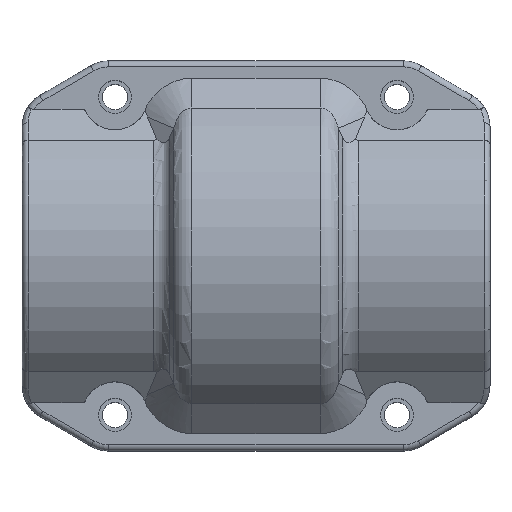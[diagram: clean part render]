
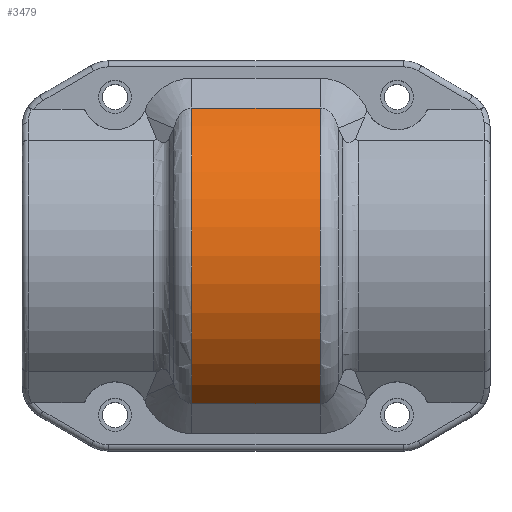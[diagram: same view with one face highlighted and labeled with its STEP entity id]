
A CAD part, top view. The second image highlights one B-rep face of the part: STEP entity #3479.
In plain terms, the highlighted cylindrical face has radius 29.95 mm (diameter 59.9 mm), a partial arc.
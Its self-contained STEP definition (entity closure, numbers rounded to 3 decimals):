
#899=DIRECTION('',(1.,0.,0.));
#900=VECTOR('',#899,21.384);
#901=CARTESIAN_POINT('',(-10.692,24.633,17.035));
#902=LINE('',#901,#900);
#906=DIRECTION('',(-1.,0.,0.));
#907=VECTOR('',#906,21.384);
#908=CARTESIAN_POINT('',(10.692,-24.633,17.035));
#909=LINE('',#908,#907);
#940=CARTESIAN_POINT('',(-10.692,0.,0.));
#941=DIRECTION('',(1.,0.,0.));
#942=DIRECTION('',(0.,0.822,0.569));
#943=AXIS2_PLACEMENT_3D('',#940,#941,#942);
#948=CARTESIAN_POINT('',(-10.692,0.,0.));
#949=DIRECTION('',(1.,0.,0.));
#950=DIRECTION('',(0.,0.,1.));
#951=AXIS2_PLACEMENT_3D('',#948,#949,#950);
#1153=CARTESIAN_POINT('',(10.692,0.,0.));
#1154=DIRECTION('',(-1.,0.,0.));
#1155=DIRECTION('',(0.,0.,1.));
#1156=AXIS2_PLACEMENT_3D('',#1153,#1154,#1155);
#1161=CARTESIAN_POINT('',(10.692,24.633,17.035));
#1215=CARTESIAN_POINT('',(10.692,0.,0.));
#1216=DIRECTION('',(-1.,0.,0.));
#1217=DIRECTION('',(0.,-0.822,0.569));
#1218=AXIS2_PLACEMENT_3D('',#1215,#1216,#1217);
#2408=VERTEX_POINT('',#1161);
#2538=CARTESIAN_POINT('',(-10.692,24.633,17.035));
#2539=VERTEX_POINT('',#2538);
#2540=CARTESIAN_POINT('',(-10.692,0.,29.95));
#2541=VERTEX_POINT('',#2540);
#2542=CARTESIAN_POINT('',(10.692,0.,29.95));
#2543=VERTEX_POINT('',#2542);
#2544=CARTESIAN_POINT('',(10.692,-24.633,17.035));
#2545=VERTEX_POINT('',#2544);
#2546=CARTESIAN_POINT('',(-10.692,-24.633,
17.035));
#2547=VERTEX_POINT('',#2546);
#3461=CARTESIAN_POINT('',(39.,0.,0.));
#3462=DIRECTION('',(-1.,0.,0.));
#3463=DIRECTION('',(0.,0.,1.));
#3464=AXIS2_PLACEMENT_3D('',#3461,#3462,#3463);
#3465=CYLINDRICAL_SURFACE('',#3464,29.95);
#3467=ORIENTED_EDGE('',*,*,#3466,.F.);
#3468=ORIENTED_EDGE('',*,*,#3456,.T.);
#3470=ORIENTED_EDGE('',*,*,#3469,.F.);
#3472=ORIENTED_EDGE('',*,*,#3471,.F.);
#3474=ORIENTED_EDGE('',*,*,#3473,.T.);
#3476=ORIENTED_EDGE('',*,*,#3475,.F.);
#3477=EDGE_LOOP('',(#3467,#3468,#3470,#3472,#3474,#3476));
#3478=FACE_OUTER_BOUND('',#3477,.F.);
#944=CIRCLE('',#943,29.95);
#952=CIRCLE('',#951,29.95);
#1157=CIRCLE('',#1156,29.95);
#1219=CIRCLE('',#1218,29.95);
#3456=EDGE_CURVE('',#2539,#2408,#902,.T.);
#3466=EDGE_CURVE('',#2539,#2541,#944,.T.);
#3469=EDGE_CURVE('',#2543,#2408,#1157,.T.);
#3471=EDGE_CURVE('',#2545,#2543,#1219,.T.);
#3473=EDGE_CURVE('',#2545,#2547,#909,.T.);
#3475=EDGE_CURVE('',#2541,#2547,#952,.T.);
#3479=ADVANCED_FACE('',(#3478),#3465,.T.);
